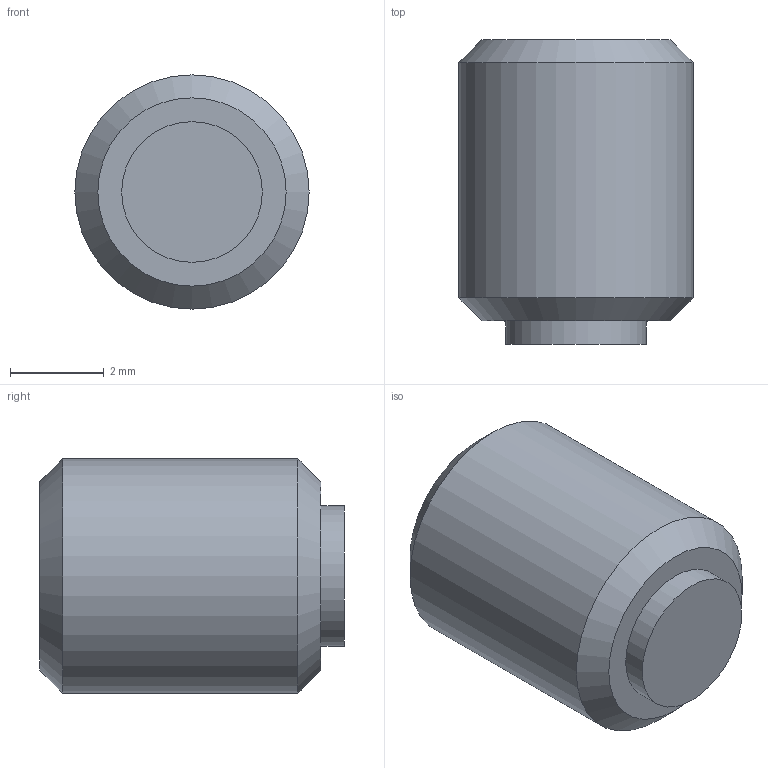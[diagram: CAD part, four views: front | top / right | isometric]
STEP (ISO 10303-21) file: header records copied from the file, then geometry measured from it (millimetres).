
FILE_DESCRIPTION( ( 'STEP AP203' ), '1' );
FILE_NAME( 'C:/Temp/Ganter_Step_05_03_2020/data/3_2/gn913_3/Grub screw GN 913.3-M5-6-MS.stp', '2020-03-13T05:35:46', ( 'License CC BY-ND 4.0' ), ( 'CADENAS' ), ' ', 'PARTsolutions', ' ' );
FILE_SCHEMA( ( 'CONFIG_CONTROL_DESIGN' ) );
Length unit declared in the file: millimetre
Products named in the file (1): _Grub screw GN 913.3-M5-6-MS
Bounding box: 5 x 6.5 x 5 mm (x, y, z)
Volume: 101.6 mm3; surface area: 154.6 mm2
Topology: 1 solids, 1 shells, 14 faces, 28 edges, 18 vertices
Faces by surface type: plane 10, cylinder 2, cone 2
Full cylindrical faces by diameter (mm): 3 x1, 5 x1
Entity records: 386 total; most frequent: DIRECTION 60, CARTESIAN_POINT 57, ORIENTED_EDGE 48, EDGE_CURVE 24, AXIS2_PLACEMENT_3D 21, EDGE_LOOP 20, VERTEX_POINT 18, LINE 18
